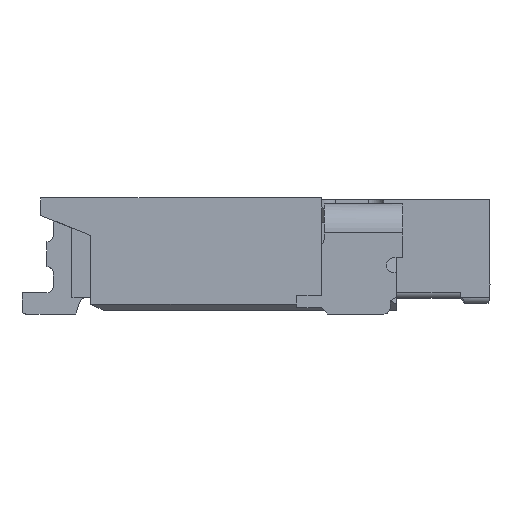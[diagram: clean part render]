
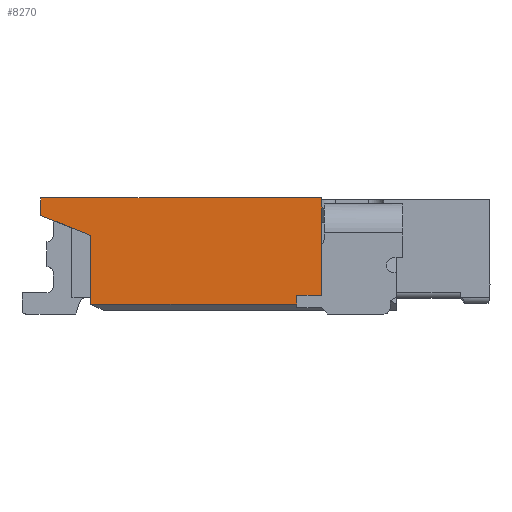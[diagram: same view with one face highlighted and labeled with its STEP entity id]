
A CAD part, front view. The second image highlights one B-rep face of the part: STEP entity #8270.
In plain terms, the highlighted planar face has unit normal (0, -1, 0).
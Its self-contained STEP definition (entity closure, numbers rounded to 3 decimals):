
#35 = LINE ( 'NONE', #3347, #19831 ) ;
#333 = DIRECTION ( 'NONE',  ( 0., 0., -1. ) ) ;
#540 = VECTOR ( 'NONE', #6568, 1000. ) ;
#615 = CARTESIAN_POINT ( 'NONE',  ( -1.118, -16.536, -0.951 ) ) ;
#763 = LINE ( 'NONE', #18840, #16542 ) ;
#1021 = VERTEX_POINT ( 'NONE', #17502 ) ;
#1067 = CARTESIAN_POINT ( 'NONE',  ( -1.118, -16.536, -0.021 ) ) ;
#1082 = DIRECTION ( 'NONE',  ( -1., 0., 0. ) ) ;
#1904 = CARTESIAN_POINT ( 'NONE',  ( -0.718, -16.536, -0.871 ) ) ;
#2361 = DIRECTION ( 'NONE',  ( 0., 1., 0. ) ) ;
#2460 = CARTESIAN_POINT ( 'NONE',  ( 0.607, -16.536, -0.951 ) ) ;
#2562 = DIRECTION ( 'NONE',  ( 1., 0., 0. ) ) ;
#2797 = VECTOR ( 'NONE', #8918, 1000. ) ;
#2939 = EDGE_LOOP ( 'NONE', ( #5486, #11648, #11743, #5411, #5182, #14970, #5611, #19028 ) ) ;
#3266 = CARTESIAN_POINT ( 'NONE',  ( 0.932, -16.536, -0.801 ) ) ;
#3333 = LINE ( 'NONE', #19884, #6021 ) ;
#3347 = CARTESIAN_POINT ( 'NONE',  ( -0.718, -16.536, -0.951 ) ) ;
#3862 = CARTESIAN_POINT ( 'NONE',  ( 1.132, -16.536, -0.801 ) ) ;
#5182 = ORIENTED_EDGE ( 'NONE', *, *, #13249, .F. ) ;
#5411 = ORIENTED_EDGE ( 'NONE', *, *, #15615, .F. ) ;
#5486 = ORIENTED_EDGE ( 'NONE', *, *, #17124, .F. ) ;
#5594 = EDGE_CURVE ( 'NONE', #12698, #20077, #10854, .T. ) ;
#5611 = ORIENTED_EDGE ( 'NONE', *, *, #18556, .F. ) ;
#5828 = LINE ( 'NONE', #615, #2797 ) ;
#6021 = VECTOR ( 'NONE', #333, 1000. ) ;
#6081 = VECTOR ( 'NONE', #1082, 1000. ) ;
#6299 = DIRECTION ( 'NONE',  ( -1., 0., 0. ) ) ;
#6568 = DIRECTION ( 'NONE',  ( -0.928, 0., 0.371 ) ) ;
#7783 = VERTEX_POINT ( 'NONE', #3266 ) ;
#8270 = ADVANCED_FACE ( 'NONE', ( #16592 ), #16800, .F. ) ;
#8694 = EDGE_CURVE ( 'NONE', #16825, #12698, #5828, .T. ) ;
#8918 = DIRECTION ( 'NONE',  ( 0., 0., 1. ) ) ;
#9185 = CARTESIAN_POINT ( 'NONE',  ( 0.607, -16.536, -0.871 ) ) ;
#9879 = AXIS2_PLACEMENT_3D ( 'NONE', #2460, #2361, #10642 ) ;
#10350 = DIRECTION ( 'NONE',  ( 0., 0., -1. ) ) ;
#10642 = DIRECTION ( 'NONE',  ( 1., 0., 0. ) ) ;
#10662 = CARTESIAN_POINT ( 'NONE',  ( 0.607, -16.536, -0.801 ) ) ;
#10854 = LINE ( 'NONE', #1067, #17287 ) ;
#11648 = ORIENTED_EDGE ( 'NONE', *, *, #5594, .F. ) ;
#11743 = ORIENTED_EDGE ( 'NONE', *, *, #8694, .F. ) ;
#12459 = LINE ( 'NONE', #9185, #14419 ) ;
#12698 = VERTEX_POINT ( 'NONE', #14304 ) ;
#13249 = EDGE_CURVE ( 'NONE', #17363, #1021, #35, .T. ) ;
#13446 = VERTEX_POINT ( 'NONE', #3862 ) ;
#14304 = CARTESIAN_POINT ( 'NONE',  ( -1.118, -16.536, -0.021 ) ) ;
#14324 = CARTESIAN_POINT ( 'NONE',  ( 1.132, -16.536, -0.021 ) ) ;
#14419 = VECTOR ( 'NONE', #6299, 1000. ) ;
#14674 = EDGE_CURVE ( 'NONE', #19651, #17363, #12459, .T. ) ;
#14970 = ORIENTED_EDGE ( 'NONE', *, *, #14674, .F. ) ;
#15532 = LINE ( 'NONE', #10662, #6081 ) ;
#15615 = EDGE_CURVE ( 'NONE', #1021, #16825, #17719, .T. ) ;
#16542 = VECTOR ( 'NONE', #10350, 1000. ) ;
#16592 = FACE_OUTER_BOUND ( 'NONE', #2939, .T. ) ;
#16800 = PLANE ( 'NONE',  #9879 ) ;
#16825 = VERTEX_POINT ( 'NONE', #17377 ) ;
#17124 = EDGE_CURVE ( 'NONE', #20077, #13446, #763, .T. ) ;
#17287 = VECTOR ( 'NONE', #2562, 1000. ) ;
#17363 = VERTEX_POINT ( 'NONE', #1904 ) ;
#17377 = CARTESIAN_POINT ( 'NONE',  ( -1.118, -16.536, -0.161 ) ) ;
#17502 = CARTESIAN_POINT ( 'NONE',  ( -0.718, -16.536, -0.321 ) ) ;
#17719 = LINE ( 'NONE', #19411, #540 ) ;
#18556 = EDGE_CURVE ( 'NONE', #7783, #19651, #3333, .T. ) ;
#18840 = CARTESIAN_POINT ( 'NONE',  ( 1.132, -16.536, -0.951 ) ) ;
#19028 = ORIENTED_EDGE ( 'NONE', *, *, #20650, .F. ) ;
#19411 = CARTESIAN_POINT ( 'NONE',  ( -0.718, -16.536, -0.321 ) ) ;
#19582 = DIRECTION ( 'NONE',  ( 0., 0., 1. ) ) ;
#19651 = VERTEX_POINT ( 'NONE', #20501 ) ;
#19831 = VECTOR ( 'NONE', #19582, 1000. ) ;
#19884 = CARTESIAN_POINT ( 'NONE',  ( 0.932, -16.536, -0.951 ) ) ;
#20077 = VERTEX_POINT ( 'NONE', #14324 ) ;
#20501 = CARTESIAN_POINT ( 'NONE',  ( 0.932, -16.536, -0.871 ) ) ;
#20650 = EDGE_CURVE ( 'NONE', #13446, #7783, #15532, .T. ) ;
